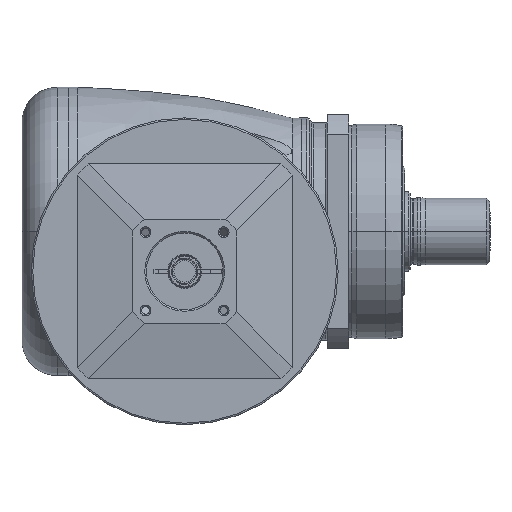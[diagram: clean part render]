
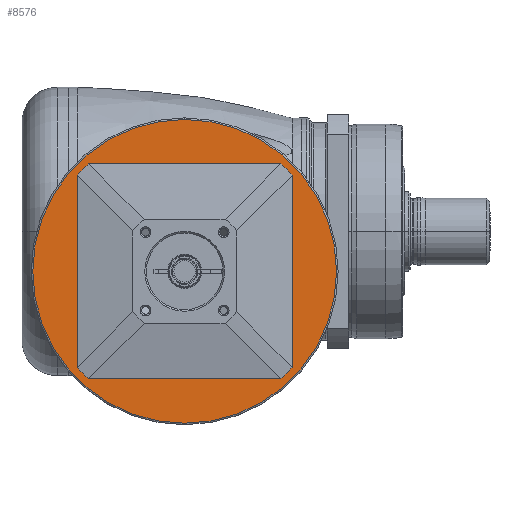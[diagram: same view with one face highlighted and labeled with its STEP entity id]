
A CAD part, front view. The second image highlights one B-rep face of the part: STEP entity #8576.
In plain terms, the highlighted planar face has unit normal (0, -1, 0) as drawn and (1, 0, 0) by its records, which use the part's own axes.
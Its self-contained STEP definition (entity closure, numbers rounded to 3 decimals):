
#7559=CARTESIAN_POINT('',(-7.,0.,0.));
#7560=DIRECTION('',(-1.,0.,0.));
#7561=DIRECTION('',(0.,-1.,0.));
#7562=AXIS2_PLACEMENT_3D('',#7559,#7560,#7561);
#7564=CARTESIAN_POINT('',(-7.,0.,0.));
#7565=DIRECTION('',(-1.,0.,0.));
#7566=DIRECTION('',(0.,1.,0.));
#7567=AXIS2_PLACEMENT_3D('',#7564,#7565,#7566);
#7569=CARTESIAN_POINT('',(-7.,0.,0.));
#7570=DIRECTION('',(-1.,0.,0.));
#7571=DIRECTION('',(0.,-1.,0.));
#7572=AXIS2_PLACEMENT_3D('',#7569,#7570,#7571);
#7574=CARTESIAN_POINT('',(-7.,0.,0.));
#7575=DIRECTION('',(-1.,0.,0.));
#7576=DIRECTION('',(0.,1.,0.));
#7577=AXIS2_PLACEMENT_3D('',#7574,#7575,#7576);
#7821=CARTESIAN_POINT('',(-7.,-49.5,0.));
#7822=CARTESIAN_POINT('',(-7.,49.5,0.));
#7823=VERTEX_POINT('',#7821);
#7824=VERTEX_POINT('',#7822);
#7879=CARTESIAN_POINT('',(-7.,-34.5,0.));
#7880=CARTESIAN_POINT('',(-7.,34.5,0.));
#7881=VERTEX_POINT('',#7879);
#7882=VERTEX_POINT('',#7880);
#8561=CARTESIAN_POINT('',(-7.,0.,0.));
#8562=DIRECTION('',(1.,0.,0.));
#8563=DIRECTION('',(0.,-1.,0.));
#8564=AXIS2_PLACEMENT_3D('',#8561,#8562,#8563);
#8565=PLANE('',#8564);
#8566=ORIENTED_EDGE('',*,*,#8493,.T.);
#8567=ORIENTED_EDGE('',*,*,#8478,.T.);
#8568=EDGE_LOOP('',(#8566,#8567));
#8569=FACE_OUTER_BOUND('',#8568,.F.);
#8571=ORIENTED_EDGE('',*,*,#8570,.F.);
#8573=ORIENTED_EDGE('',*,*,#8572,.F.);
#8574=EDGE_LOOP('',(#8571,#8573));
#8575=FACE_BOUND('',#8574,.F.);
#8576=ADVANCED_FACE('',(#8569,#8575),#8565,.T.);
#7563=CIRCLE('',#7562,34.5);
#7568=CIRCLE('',#7567,34.5);
#7573=CIRCLE('',#7572,49.5);
#7578=CIRCLE('',#7577,49.5);
#8478=EDGE_CURVE('',#7824,#7823,#7578,.T.);
#8493=EDGE_CURVE('',#7823,#7824,#7573,.T.);
#8570=EDGE_CURVE('',#7881,#7882,#7563,.T.);
#8572=EDGE_CURVE('',#7882,#7881,#7568,.T.);
